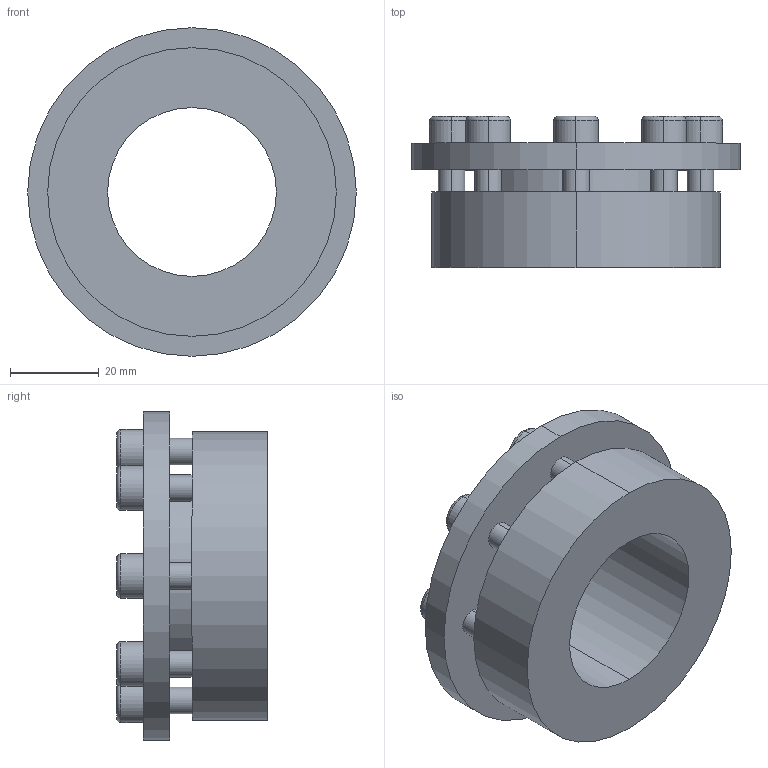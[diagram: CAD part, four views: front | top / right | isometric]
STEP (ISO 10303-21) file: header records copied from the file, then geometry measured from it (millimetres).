
FILE_DESCRIPTION (( 'STEP AP203' ), '1' );
FILE_NAME ('PL-H6 38-65.STEP', '2021-10-23T01:36:20', ( '' ), ( '' ), 'SwSTEP 2.0', 'SolidWorks 2018', '' );
FILE_SCHEMA (( 'CONFIG_CONTROL_DESIGN' ));
Length unit declared in the file: millimetre
Products named in the file (1): PL-H6 38-65
Bounding box: 74 x 34 x 74 mm (x, y, z)
Volume: 62187.5 mm3; surface area: 21015.9 mm2
Topology: 1 solids, 1 shells, 124 faces, 296 edges, 192 vertices
Faces by surface type: plane 68, cylinder 40, torus 16
Entity records: 3717 total; most frequent: DIRECTION 658, CARTESIAN_POINT 613, ORIENTED_EDGE 592, EDGE_CURVE 296, AXIS2_PLACEMENT_3D 237, VERTEX_POINT 192, LINE 184, VECTOR 184
